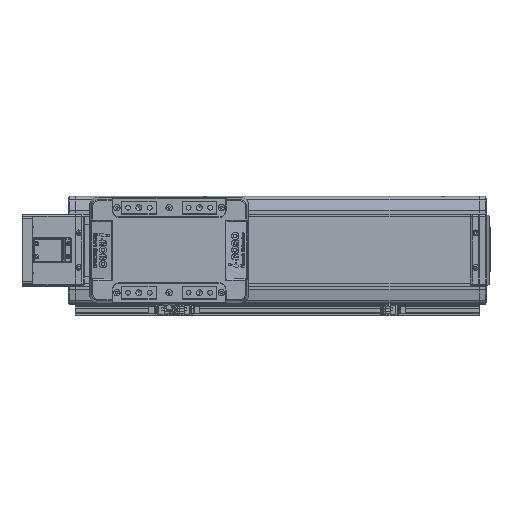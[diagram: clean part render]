
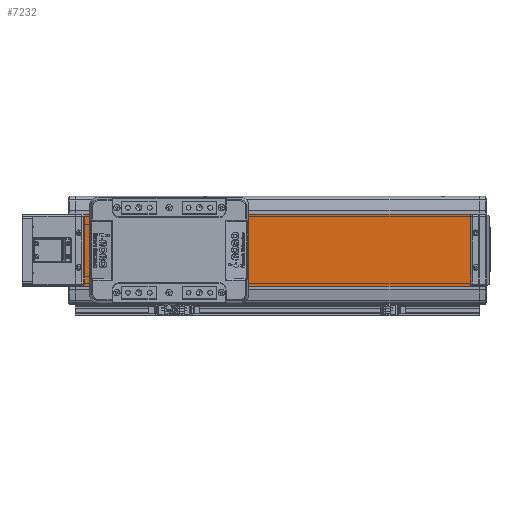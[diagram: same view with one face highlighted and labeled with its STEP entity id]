
A CAD part, top view. The second image highlights one B-rep face of the part: STEP entity #7232.
In plain terms, the highlighted planar face has unit normal (0, 0, 1).
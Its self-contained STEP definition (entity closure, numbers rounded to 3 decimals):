
#7232=ADVANCED_FACE('',(#15956),#15957,.F.);
#15956=FACE_OUTER_BOUND('',#27952,.T.);
#15957=PLANE('',#27953);
#27952=EDGE_LOOP('',(#48005,#48006,#48007,#48008));
#27953=AXIS2_PLACEMENT_3D('',#48009,#48010,#48011);
#48005=ORIENTED_EDGE('',*,*,#66351,.F.);
#48006=ORIENTED_EDGE('',*,*,#71802,.F.);
#48007=ORIENTED_EDGE('',*,*,#71803,.F.);
#48008=ORIENTED_EDGE('',*,*,#71804,.T.);
#48009=CARTESIAN_POINT('',(0.,0.,26.));
#48010=DIRECTION('',(0.,0.,-1.0));
#48011=DIRECTION('',(0.,1.0,0.));
#66351=EDGE_CURVE('',#79726,#79728,#79729,.T.);
#71802=EDGE_CURVE('',#88255,#79726,#88256,.T.);
#71803=EDGE_CURVE('',#88257,#88255,#88258,.T.);
#71804=EDGE_CURVE('',#88257,#79728,#88259,.T.);
#79726=VERTEX_POINT('',#98233);
#79728=VERTEX_POINT('',#98236);
#79729=LINE('',#98237,#98238);
#88255=VERTEX_POINT('',#110463);
#88256=LINE('',#110464,#110465);
#88257=VERTEX_POINT('',#110466);
#88258=LINE('',#110467,#110468);
#88259=LINE('',#110469,#110470);
#98233=CARTESIAN_POINT('',(560.0,50.,26.));
#98236=CARTESIAN_POINT('',(560.0,-50.,26.));
#98237=CARTESIAN_POINT('',(560.0,-50.,26.));
#98238=VECTOR('',#120800,10.0);
#110463=CARTESIAN_POINT('',(0.,50.,26.));
#110464=CARTESIAN_POINT('',(0.,50.,26.));
#110465=VECTOR('',#128401,10.0);
#110466=CARTESIAN_POINT('',(0.,-50.,26.));
#110467=CARTESIAN_POINT('',(0.,-50.,26.));
#110468=VECTOR('',#128402,10.0);
#110469=CARTESIAN_POINT('',(0.,-50.,26.));
#110470=VECTOR('',#128403,10.0);
#120800=DIRECTION('',(0.,-1.0,0.));
#128401=DIRECTION('',(1.0,0.,0.));
#128402=DIRECTION('',(0.,1.0,0.));
#128403=DIRECTION('',(1.0,0.,0.));
